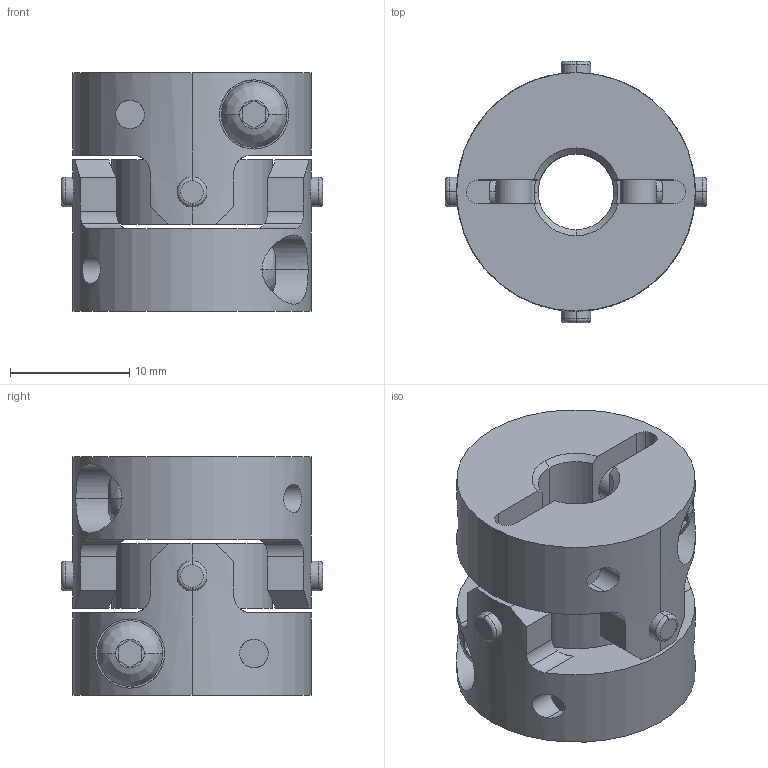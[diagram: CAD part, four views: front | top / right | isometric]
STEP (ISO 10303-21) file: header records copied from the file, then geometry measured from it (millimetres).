
FILE_DESCRIPTION((''),'2;1');
FILE_NAME('UA-20C-6.35×6.35.stp','2013-11-12T14:10:55',(''),(''),'AutoCAD STEP 2000i','AutoCAD 2000i',', , ');
FILE_SCHEMA(('CONFIG_CONTROL_DESIGN'));
Length unit declared in the file: millimetre
Products named in the file (6): UA-20C-4×4; 忣兜1; UA-2002-D04-1; BTN-M3; UA-2002-D04; UA20-SEN
Assembly tree (6 placements, depth 3):
  UA-20C-4×4
    忣兜1
    UA-2002-D04-1
      BTN-M3
    UA-2002-D04
      BTN-M3
    UA20-SEN
Bounding box: 21.89 x 21.89 x 20 mm (x, y, z)
Volume: 4406.7 mm3; surface area: 3850.1 mm2
Topology: 1 solids, 1 shells, 206 faces, 554 edges, 364 vertices
Faces by surface type: cylinder 96, plane 78, cone 16, bspline 8, torus 8
Entity records: 8011 total; most frequent: CARTESIAN_POINT 2695, ORIENTED_EDGE 1108, DIRECTION 1064, EDGE_CURVE 554, AXIS2_PLACEMENT_3D 409, VERTEX_POINT 364, VECTOR 246, LINE 246
